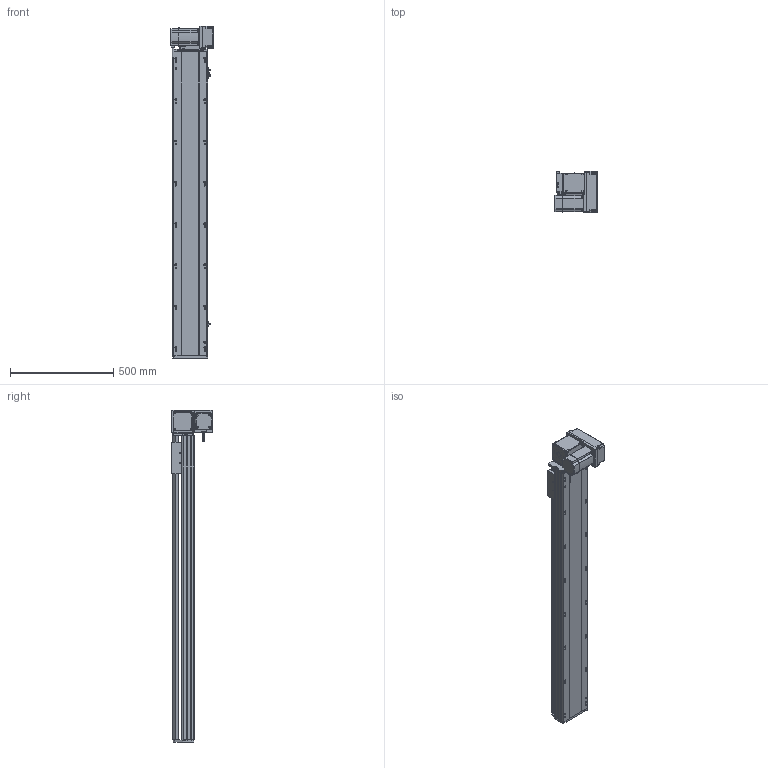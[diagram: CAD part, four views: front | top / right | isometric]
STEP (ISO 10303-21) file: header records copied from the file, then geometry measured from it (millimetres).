
FILE_DESCRIPTION (( 'STEP AP214' ), '1' );
FILE_NAME ('RTB17S-XX-1200-RM-M75-C4.STEP', '2025-12-12T02:07:12', ( '' ), ( '' ), 'SwSTEP 2.0', 'SolidWorks 2018', '' );
FILE_SCHEMA (( 'AUTOMOTIVE_DESIGN' ));
Length unit declared in the file: millimetre
Products named in the file (15): EE672^RTB17S-XX-XX-RM-M75-C4; RTB17S-L-004-賑釱^RTB17S-賑釱_RTB17S-XX-XX-RM-M75-C4; RTB17S-RM-々湍釱蚾饜-750W^RTB17S-XX-XX-RM-M75-C4; RTB17S-XX-1200-RM-M75-C4; RTB17-R-011菁釱^RTB17S-XX-XX-RM-M75-C4; RTB22S-GY-017P^RTB17S-RM-々湍釱蚾饜-750W_RTB17S-XX-XX-RM-M75-C4; RTB17S-L-001-耜醱啣^RTB17S-XX-XX-RM-M75-C4; RTB22S-GY-018P^RTB17S-RM-々湍釱蚾饜-750W_RTB17S-XX-XX-RM-M75-C4; RTB17S-賑釱^RTB17S-XX-XX-RM-M75-C4; RTB22S-GY-008-M75--萇儂啣^RTB17S-RM-々湍釱蚾饜-750W_RTB17S-XX-XX-RM-M75-C4; RTB17S-L-014-T20-P75--々湍釱^RTB17S-RM-々湍釱蚾饜-750W_RTB17S-XX-XX-RM-M75-C4; RTB22S-GY-005P^RTB17S-RM-々湍釱蚾饜-750W_RTB17S-XX-XX-RM-M75-C4; RTH13-BL-012覜茼え俋离^RTB17S-賑釱_RTB17S-XX-XX-RM-M75-C4; RTB17S-L-007奻裔^RTB17S-XX-XX-RM-M75-C4; 750W萇儂^RTB17S-XX-XX-RM-M75-C4
Assembly tree (17 placements, depth 3):
  RTB17S-XX-1200-RM-M75-C4
    RTB17-R-011菁釱^RTB17S-XX-XX-RM-M75-C4
    EE672^RTB17S-XX-XX-RM-M75-C4  x3
    RTB17S-L-001-耜醱啣^RTB17S-XX-XX-RM-M75-C4
    RTB17S-賑釱^RTB17S-XX-XX-RM-M75-C4
      RTB17S-L-004-賑釱^RTB17S-賑釱_RTB17S-XX-XX-RM-M75-C4
      RTH13-BL-012覜茼え俋离^RTB17S-賑釱_RTB17S-XX-XX-RM-M75-C4
    RTB17S-L-007奻裔^RTB17S-XX-XX-RM-M75-C4
    750W萇儂^RTB17S-XX-XX-RM-M75-C4
    RTB17S-RM-々湍釱蚾饜-750W^RTB17S-XX-XX-RM-M75-C4
      RTB17S-L-014-T20-P75--々湍釱^RTB17S-RM-々湍釱蚾饜-750W_RTB17S-XX-XX-RM-M75-C4
      RTB22S-GY-005P^RTB17S-RM-々湍釱蚾饜-750W_RTB17S-XX-XX-RM-M75-C4
      RTB22S-GY-017P^RTB17S-RM-々湍釱蚾饜-750W_RTB17S-XX-XX-RM-M75-C4  x2
      RTB22S-GY-008-M75--萇儂啣^RTB17S-RM-々湍釱蚾饜-750W_RTB17S-XX-XX-RM-M75-C4
      RTB22S-GY-018P^RTB17S-RM-々湍釱蚾饜-750W_RTB17S-XX-XX-RM-M75-C4
Bounding box: 207.4 x 200 x 1607.5 mm (x, y, z)
Volume: 13453992 mm3; surface area: 2315685.6 mm2
Topology: 17 solids, 17 shells, 2105 faces, 5836 edges, 3770 vertices
Faces by surface type: plane 972, cylinder 717, bspline 294, cone 110, sphere 8, torus 4
Entity records: 58870 total; most frequent: CARTESIAN_POINT 17300, ORIENTED_EDGE 8516, DIRECTION 7952, EDGE_CURVE 4258, AXIS2_PLACEMENT_3D 2790, VERTEX_POINT 2774, VECTOR 2372, LINE 2372
